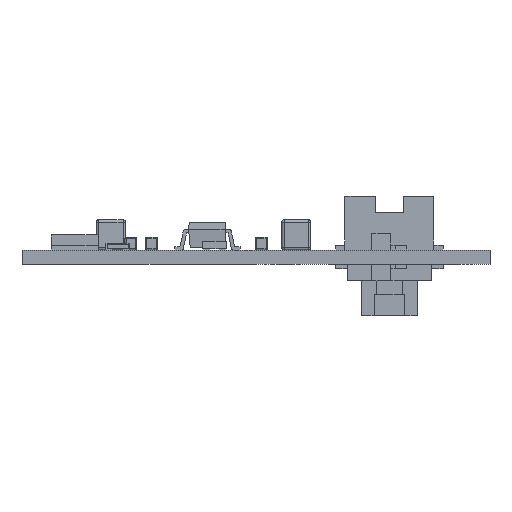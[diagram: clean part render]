
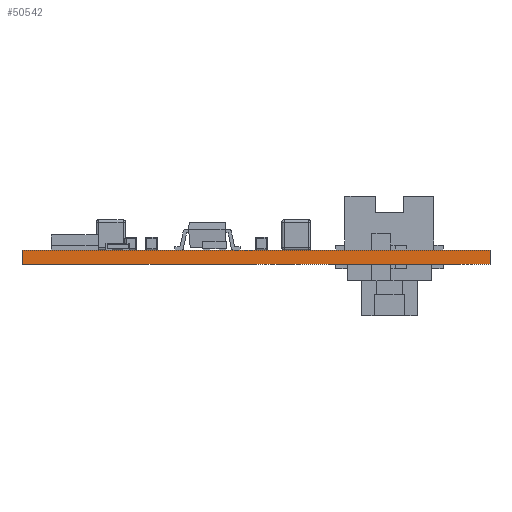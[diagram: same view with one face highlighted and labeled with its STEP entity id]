
A CAD part, left-side view. The second image highlights one B-rep face of the part: STEP entity #50542.
In plain terms, the highlighted planar face has unit normal (-1, 0, 0).
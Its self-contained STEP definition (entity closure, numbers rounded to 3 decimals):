
#50426 = EDGE_CURVE('',#50427,#50429,#50431,.T.);
#50427 = VERTEX_POINT('',#50428);
#50428 = CARTESIAN_POINT('',(10.,30.,0.));
#50429 = VERTEX_POINT('',#50430);
#50430 = CARTESIAN_POINT('',(10.,30.,0.6));
#50431 = SURFACE_CURVE('',#50432,(#50436,#50448),.PCURVE_S1.);
#50432 = LINE('',#50433,#50434);
#50433 = CARTESIAN_POINT('',(10.,30.,0.));
#50434 = VECTOR('',#50435,1.);
#50435 = DIRECTION('',(0.,0.,1.));
#50436 = PCURVE('',#50437,#50442);
#50437 = PLANE('',#50438);
#50438 = AXIS2_PLACEMENT_3D('',#50439,#50440,#50441);
#50439 = CARTESIAN_POINT('',(10.,30.,0.));
#50440 = DIRECTION('',(0.,1.,0.));
#50441 = DIRECTION('',(1.,0.,0.));
#50442 = DEFINITIONAL_REPRESENTATION('',(#50443),#50447);
#50443 = LINE('',#50444,#50445);
#50444 = CARTESIAN_POINT('',(0.,0.));
#50445 = VECTOR('',#50446,1.);
#50446 = DIRECTION('',(0.,-1.));
#50447 = ( GEOMETRIC_REPRESENTATION_CONTEXT(2) 
PARAMETRIC_REPRESENTATION_CONTEXT() REPRESENTATION_CONTEXT('2D SPACE',''
  ) );
#50448 = PCURVE('',#50449,#50454);
#50449 = PLANE('',#50450);
#50450 = AXIS2_PLACEMENT_3D('',#50451,#50452,#50453);
#50451 = CARTESIAN_POINT('',(10.,10.,0.));
#50452 = DIRECTION('',(-1.,0.,0.));
#50453 = DIRECTION('',(0.,1.,0.));
#50454 = DEFINITIONAL_REPRESENTATION('',(#50455),#50459);
#50455 = LINE('',#50456,#50457);
#50456 = CARTESIAN_POINT('',(20.,0.));
#50457 = VECTOR('',#50458,1.);
#50458 = DIRECTION('',(0.,-1.));
#50459 = ( GEOMETRIC_REPRESENTATION_CONTEXT(2) 
PARAMETRIC_REPRESENTATION_CONTEXT() REPRESENTATION_CONTEXT('2D SPACE',''
  ) );
#50477 = PLANE('',#50478);
#50478 = AXIS2_PLACEMENT_3D('',#50479,#50480,#50481);
#50479 = CARTESIAN_POINT('',(20.,20.,0.6));
#50480 = DIRECTION('',(-0.,-0.,-1.));
#50481 = DIRECTION('',(-1.,0.,0.));
#50531 = PLANE('',#50532);
#50532 = AXIS2_PLACEMENT_3D('',#50533,#50534,#50535);
#50533 = CARTESIAN_POINT('',(20.,20.,0.));
#50534 = DIRECTION('',(-0.,-0.,-1.));
#50535 = DIRECTION('',(-1.,0.,0.));
#50542 = ADVANCED_FACE('',(#50543),#50449,.T.);
#50543 = FACE_BOUND('',#50544,.T.);
#50544 = EDGE_LOOP('',(#50545,#50575,#50596,#50597));
#50545 = ORIENTED_EDGE('',*,*,#50546,.T.);
#50546 = EDGE_CURVE('',#50547,#50549,#50551,.T.);
#50547 = VERTEX_POINT('',#50548);
#50548 = CARTESIAN_POINT('',(10.,10.,0.));
#50549 = VERTEX_POINT('',#50550);
#50550 = CARTESIAN_POINT('',(10.,10.,0.6));
#50551 = SURFACE_CURVE('',#50552,(#50556,#50563),.PCURVE_S1.);
#50552 = LINE('',#50553,#50554);
#50553 = CARTESIAN_POINT('',(10.,10.,0.));
#50554 = VECTOR('',#50555,1.);
#50555 = DIRECTION('',(0.,0.,1.));
#50556 = PCURVE('',#50449,#50557);
#50557 = DEFINITIONAL_REPRESENTATION('',(#50558),#50562);
#50558 = LINE('',#50559,#50560);
#50559 = CARTESIAN_POINT('',(0.,0.));
#50560 = VECTOR('',#50561,1.);
#50561 = DIRECTION('',(0.,-1.));
#50562 = ( GEOMETRIC_REPRESENTATION_CONTEXT(2) 
PARAMETRIC_REPRESENTATION_CONTEXT() REPRESENTATION_CONTEXT('2D SPACE',''
  ) );
#50563 = PCURVE('',#50564,#50569);
#50564 = PLANE('',#50565);
#50565 = AXIS2_PLACEMENT_3D('',#50566,#50567,#50568);
#50566 = CARTESIAN_POINT('',(30.,10.,0.));
#50567 = DIRECTION('',(0.,-1.,0.));
#50568 = DIRECTION('',(-1.,0.,0.));
#50569 = DEFINITIONAL_REPRESENTATION('',(#50570),#50574);
#50570 = LINE('',#50571,#50572);
#50571 = CARTESIAN_POINT('',(20.,0.));
#50572 = VECTOR('',#50573,1.);
#50573 = DIRECTION('',(0.,-1.));
#50574 = ( GEOMETRIC_REPRESENTATION_CONTEXT(2) 
PARAMETRIC_REPRESENTATION_CONTEXT() REPRESENTATION_CONTEXT('2D SPACE',''
  ) );
#50575 = ORIENTED_EDGE('',*,*,#50576,.T.);
#50576 = EDGE_CURVE('',#50549,#50429,#50577,.T.);
#50577 = SURFACE_CURVE('',#50578,(#50582,#50589),.PCURVE_S1.);
#50578 = LINE('',#50579,#50580);
#50579 = CARTESIAN_POINT('',(10.,10.,0.6));
#50580 = VECTOR('',#50581,1.);
#50581 = DIRECTION('',(0.,1.,0.));
#50582 = PCURVE('',#50449,#50583);
#50583 = DEFINITIONAL_REPRESENTATION('',(#50584),#50588);
#50584 = LINE('',#50585,#50586);
#50585 = CARTESIAN_POINT('',(0.,-0.6));
#50586 = VECTOR('',#50587,1.);
#50587 = DIRECTION('',(1.,0.));
#50588 = ( GEOMETRIC_REPRESENTATION_CONTEXT(2) 
PARAMETRIC_REPRESENTATION_CONTEXT() REPRESENTATION_CONTEXT('2D SPACE',''
  ) );
#50589 = PCURVE('',#50477,#50590);
#50590 = DEFINITIONAL_REPRESENTATION('',(#50591),#50595);
#50591 = LINE('',#50592,#50593);
#50592 = CARTESIAN_POINT('',(10.,-10.));
#50593 = VECTOR('',#50594,1.);
#50594 = DIRECTION('',(0.,1.));
#50595 = ( GEOMETRIC_REPRESENTATION_CONTEXT(2) 
PARAMETRIC_REPRESENTATION_CONTEXT() REPRESENTATION_CONTEXT('2D SPACE',''
  ) );
#50596 = ORIENTED_EDGE('',*,*,#50426,.F.);
#50597 = ORIENTED_EDGE('',*,*,#50598,.F.);
#50598 = EDGE_CURVE('',#50547,#50427,#50599,.T.);
#50599 = SURFACE_CURVE('',#50600,(#50604,#50611),.PCURVE_S1.);
#50600 = LINE('',#50601,#50602);
#50601 = CARTESIAN_POINT('',(10.,10.,0.));
#50602 = VECTOR('',#50603,1.);
#50603 = DIRECTION('',(0.,1.,0.));
#50604 = PCURVE('',#50449,#50605);
#50605 = DEFINITIONAL_REPRESENTATION('',(#50606),#50610);
#50606 = LINE('',#50607,#50608);
#50607 = CARTESIAN_POINT('',(0.,0.));
#50608 = VECTOR('',#50609,1.);
#50609 = DIRECTION('',(1.,0.));
#50610 = ( GEOMETRIC_REPRESENTATION_CONTEXT(2) 
PARAMETRIC_REPRESENTATION_CONTEXT() REPRESENTATION_CONTEXT('2D SPACE',''
  ) );
#50611 = PCURVE('',#50531,#50612);
#50612 = DEFINITIONAL_REPRESENTATION('',(#50613),#50617);
#50613 = LINE('',#50614,#50615);
#50614 = CARTESIAN_POINT('',(10.,-10.));
#50615 = VECTOR('',#50616,1.);
#50616 = DIRECTION('',(0.,1.));
#50617 = ( GEOMETRIC_REPRESENTATION_CONTEXT(2) 
PARAMETRIC_REPRESENTATION_CONTEXT() REPRESENTATION_CONTEXT('2D SPACE',''
  ) );
